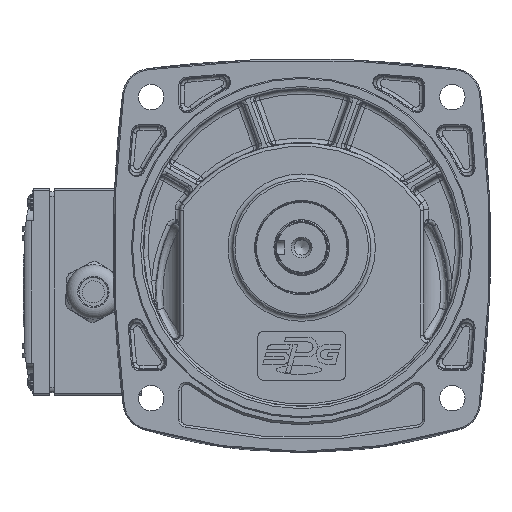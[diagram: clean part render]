
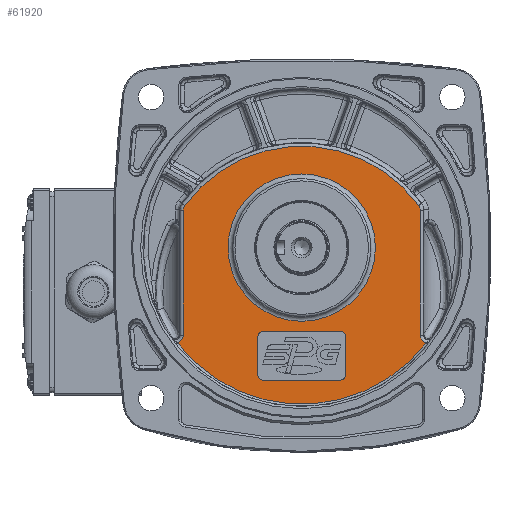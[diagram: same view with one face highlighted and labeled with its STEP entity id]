
A CAD part, top view. The second image highlights one B-rep face of the part: STEP entity #61920.
In plain terms, the highlighted planar face has unit normal (0, 0, 1).
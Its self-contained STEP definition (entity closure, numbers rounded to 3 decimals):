
#1607=FACE_BOUND('',#8704,.T.);
#1608=FACE_BOUND('',#8705,.T.);
#2297=PLANE('',#67182);
#4882=FACE_OUTER_BOUND('',#8703,.T.);
#8703=EDGE_LOOP('',(#45830,#45831,#45832,#45833,#45834,#45835,#45836,#45837));
#8704=EDGE_LOOP('',(#45838,#45839,#45840,#45841,#45842,#45843,#45844,#45845));
#8705=EDGE_LOOP('',(#45846));
#12111=CIRCLE('',#66320,32.);
#12511=CIRCLE('',#67016,63.042);
#12614=CIRCLE('',#67183,67.999);
#12615=CIRCLE('',#67184,2.);
#12616=CIRCLE('',#67185,2.);
#12617=CIRCLE('',#67186,2.);
#12618=CIRCLE('',#67187,2.);
#16242=LINE('',#106019,#19183);
#16243=LINE('',#106024,#19184);
#16286=LINE('',#107277,#19227);
#16287=LINE('',#107281,#19228);
#16288=LINE('',#107285,#19229);
#16289=LINE('',#107289,#19230);
#19183=VECTOR('',#78117,10.);
#19184=VECTOR('',#78122,10.);
#19227=VECTOR('',#78509,10.);
#19228=VECTOR('',#78512,10.);
#19229=VECTOR('',#78515,10.);
#19230=VECTOR('',#78518,10.);
#21053=B_SPLINE_CURVE_WITH_KNOTS('',3,(#106010,#106011,#106012,#106013,
#106014,#106015),.UNSPECIFIED.,.F.,.F.,(4,1,1,4),(0.,
0.252,0.378,0.441),.UNSPECIFIED.);
#21054=B_SPLINE_CURVE_WITH_KNOTS('',3,(#106048,#106049,#106050,#106051),
 .UNSPECIFIED.,.F.,.F.,(4,4),(0.,0.221),.UNSPECIFIED.);
#21055=B_SPLINE_CURVE_WITH_KNOTS('',3,(#106074,#106075,#106076,#106077),
 .UNSPECIFIED.,.F.,.F.,(4,4),(0.,0.221),.UNSPECIFIED.);
#21126=B_SPLINE_CURVE_WITH_KNOTS('',3,(#107270,#107271,#107272,#107273,
#107274),.UNSPECIFIED.,.F.,.F.,(4,1,4),(0.442,0.631,
0.883),.UNSPECIFIED.);
#24788=VERTEX_POINT('',#96659);
#25404=VERTEX_POINT('',#105996);
#25405=VERTEX_POINT('',#106008);
#25406=VERTEX_POINT('',#106017);
#25407=VERTEX_POINT('',#106021);
#25408=VERTEX_POINT('',#106023);
#25409=VERTEX_POINT('',#106046);
#25410=VERTEX_POINT('',#106072);
#25537=VERTEX_POINT('',#107268);
#25538=VERTEX_POINT('',#107275);
#25539=VERTEX_POINT('',#107276);
#25540=VERTEX_POINT('',#107278);
#25541=VERTEX_POINT('',#107280);
#25542=VERTEX_POINT('',#107282);
#25543=VERTEX_POINT('',#107284);
#25544=VERTEX_POINT('',#107286);
#25545=VERTEX_POINT('',#107288);
#31383=EDGE_CURVE('',#24788,#24788,#12111,.T.);
#32444=EDGE_CURVE('',#25405,#25404,#21053,.T.);
#32446=EDGE_CURVE('',#25406,#25405,#16242,.T.);
#32448=EDGE_CURVE('',#25407,#25408,#16243,.T.);
#32451=EDGE_CURVE('',#25409,#25406,#21054,.T.);
#32453=EDGE_CURVE('',#25408,#25410,#21055,.T.);
#32454=EDGE_CURVE('',#25410,#25409,#12511,.T.);
#32669=EDGE_CURVE('',#25404,#25537,#12614,.T.);
#32670=EDGE_CURVE('',#25537,#25407,#21126,.T.);
#32671=EDGE_CURVE('',#25538,#25539,#16286,.T.);
#32672=EDGE_CURVE('',#25540,#25539,#12615,.T.);
#32673=EDGE_CURVE('',#25540,#25541,#16287,.T.);
#32674=EDGE_CURVE('',#25542,#25541,#12616,.T.);
#32675=EDGE_CURVE('',#25542,#25543,#16288,.T.);
#32676=EDGE_CURVE('',#25544,#25543,#12617,.T.);
#32677=EDGE_CURVE('',#25544,#25545,#16289,.T.);
#32678=EDGE_CURVE('',#25538,#25545,#12618,.T.);
#45830=ORIENTED_EDGE('',*,*,#32669,.F.);
#45831=ORIENTED_EDGE('',*,*,#32444,.F.);
#45832=ORIENTED_EDGE('',*,*,#32446,.F.);
#45833=ORIENTED_EDGE('',*,*,#32451,.F.);
#45834=ORIENTED_EDGE('',*,*,#32454,.F.);
#45835=ORIENTED_EDGE('',*,*,#32453,.F.);
#45836=ORIENTED_EDGE('',*,*,#32448,.F.);
#45837=ORIENTED_EDGE('',*,*,#32670,.F.);
#45838=ORIENTED_EDGE('',*,*,#32671,.T.);
#45839=ORIENTED_EDGE('',*,*,#32672,.F.);
#45840=ORIENTED_EDGE('',*,*,#32673,.T.);
#45841=ORIENTED_EDGE('',*,*,#32674,.F.);
#45842=ORIENTED_EDGE('',*,*,#32675,.T.);
#45843=ORIENTED_EDGE('',*,*,#32676,.F.);
#45844=ORIENTED_EDGE('',*,*,#32677,.T.);
#45845=ORIENTED_EDGE('',*,*,#32678,.F.);
#45846=ORIENTED_EDGE('',*,*,#31383,.F.);
#61920=ADVANCED_FACE('',(#4882,#1607,#1608),#2297,.F.);
#66320=AXIS2_PLACEMENT_3D('',#96661,#76509,#76510);
#67016=AXIS2_PLACEMENT_3D('',#106079,#78131,#78132);
#67182=AXIS2_PLACEMENT_3D('',#107267,#78505,#78506);
#67183=AXIS2_PLACEMENT_3D('',#107269,#78507,#78508);
#67184=AXIS2_PLACEMENT_3D('',#107279,#78510,#78511);
#67185=AXIS2_PLACEMENT_3D('',#107283,#78513,#78514);
#67186=AXIS2_PLACEMENT_3D('',#107287,#78516,#78517);
#67187=AXIS2_PLACEMENT_3D('',#107290,#78519,#78520);
#76509=DIRECTION('center_axis',(0.,0.,1.));
#76510=DIRECTION('ref_axis',(-1.,0.,0.));
#78117=DIRECTION('',(0.,-1.,0.));
#78122=DIRECTION('',(0.,1.,0.));
#78131=DIRECTION('center_axis',(0.,0.,-1.));
#78132=DIRECTION('ref_axis',(0.,1.,0.));
#78505=DIRECTION('center_axis',(0.,0.,-1.));
#78506=DIRECTION('ref_axis',(-1.,0.,0.));
#78507=DIRECTION('center_axis',(0.,0.,-1.));
#78508=DIRECTION('ref_axis',(0.,-1.,0.));
#78509=DIRECTION('',(0.,1.,0.));
#78510=DIRECTION('center_axis',(0.,0.,1.));
#78511=DIRECTION('ref_axis',(-0.707,0.707,0.));
#78512=DIRECTION('',(1.,0.,0.));
#78513=DIRECTION('center_axis',(0.,0.,1.));
#78514=DIRECTION('ref_axis',(0.707,0.707,0.));
#78515=DIRECTION('',(0.,-1.,0.));
#78516=DIRECTION('center_axis',(0.,0.,1.));
#78517=DIRECTION('ref_axis',(0.707,-0.707,0.));
#78518=DIRECTION('',(-1.,0.,0.));
#78519=DIRECTION('center_axis',(0.,0.,1.));
#78520=DIRECTION('ref_axis',(-0.707,-0.707,0.));
#96659=CARTESIAN_POINT('',(34.891,19.08,42.));
#96661=CARTESIAN_POINT('Origin',(2.891,19.08,42.));
#105996=CARTESIAN_POINT('',(56.837,-22.316,42.));
#106008=CARTESIAN_POINT('',(54.391,-18.967,42.));
#106010=CARTESIAN_POINT('Ctrl Pts',(54.391,-18.967,42.));
#106011=CARTESIAN_POINT('Ctrl Pts',(54.391,-19.808,42.));
#106012=CARTESIAN_POINT('Ctrl Pts',(54.87,-21.07,42.));
#106013=CARTESIAN_POINT('Ctrl Pts',(56.051,-22.005,
42.));
#106014=CARTESIAN_POINT('Ctrl Pts',(56.638,-22.248,
42.));
#106015=CARTESIAN_POINT('Ctrl Pts',(56.838,-22.311,
42.));
#106017=CARTESIAN_POINT('',(54.391,35.309,42.));
#106019=CARTESIAN_POINT('',(54.391,-29.42,42.));
#106021=CARTESIAN_POINT('',(-48.609,-18.967,42.));
#106023=CARTESIAN_POINT('',(-48.609,35.309,42.));
#106024=CARTESIAN_POINT('',(-48.609,-29.42,42.));
#106046=CARTESIAN_POINT('',(53.711,37.384,42.));
#106048=CARTESIAN_POINT('Ctrl Pts',(53.711,37.384,42.));
#106049=CARTESIAN_POINT('Ctrl Pts',(54.147,36.789,42.));
#106050=CARTESIAN_POINT('Ctrl Pts',(54.391,36.046,42.));
#106051=CARTESIAN_POINT('Ctrl Pts',(54.391,35.309,42.));
#106072=CARTESIAN_POINT('',(-47.93,37.384,42.));
#106074=CARTESIAN_POINT('Ctrl Pts',(-48.609,35.309,
42.));
#106075=CARTESIAN_POINT('Ctrl Pts',(-48.609,36.046,
42.));
#106076=CARTESIAN_POINT('Ctrl Pts',(-48.366,36.789,42.));
#106077=CARTESIAN_POINT('Ctrl Pts',(-47.93,37.384,
42.));
#106079=CARTESIAN_POINT('Origin',(2.891,0.08,42.));
#107267=CARTESIAN_POINT('Origin',(2.891,0.08,42.));
#107268=CARTESIAN_POINT('',(-51.055,-22.316,42.));
#107269=CARTESIAN_POINT('Origin',(2.891,19.08,42.));
#107270=CARTESIAN_POINT('Ctrl Pts',(-51.056,-22.314,
42.));
#107271=CARTESIAN_POINT('Ctrl Pts',(-50.454,-22.12,
42.));
#107272=CARTESIAN_POINT('Ctrl Pts',(-49.164,-21.285,
42.));
#107273=CARTESIAN_POINT('Ctrl Pts',(-48.609,-19.808,
42.));
#107274=CARTESIAN_POINT('Ctrl Pts',(-48.609,-18.967,
42.));
#107275=CARTESIAN_POINT('',(-16.109,-36.42,42.));
#107276=CARTESIAN_POINT('',(-16.109,-19.42,42.));
#107277=CARTESIAN_POINT('',(-16.109,-8.67,42.));
#107278=CARTESIAN_POINT('',(-14.109,-17.42,42.));
#107279=CARTESIAN_POINT('Origin',(-14.109,-19.42,42.));
#107280=CARTESIAN_POINT('',(19.891,-17.42,42.));
#107281=CARTESIAN_POINT('',(12.391,-17.42,42.));
#107282=CARTESIAN_POINT('',(21.891,-19.42,42.));
#107283=CARTESIAN_POINT('Origin',(19.891,-19.42,42.));
#107284=CARTESIAN_POINT('',(21.891,-36.42,42.));
#107285=CARTESIAN_POINT('',(21.891,-19.17,42.));
#107286=CARTESIAN_POINT('',(19.891,-38.42,42.));
#107287=CARTESIAN_POINT('Origin',(19.891,-36.42,42.));
#107288=CARTESIAN_POINT('',(-14.109,-38.42,42.));
#107289=CARTESIAN_POINT('',(-6.609,-38.42,42.));
#107290=CARTESIAN_POINT('Origin',(-14.109,-36.42,42.));
